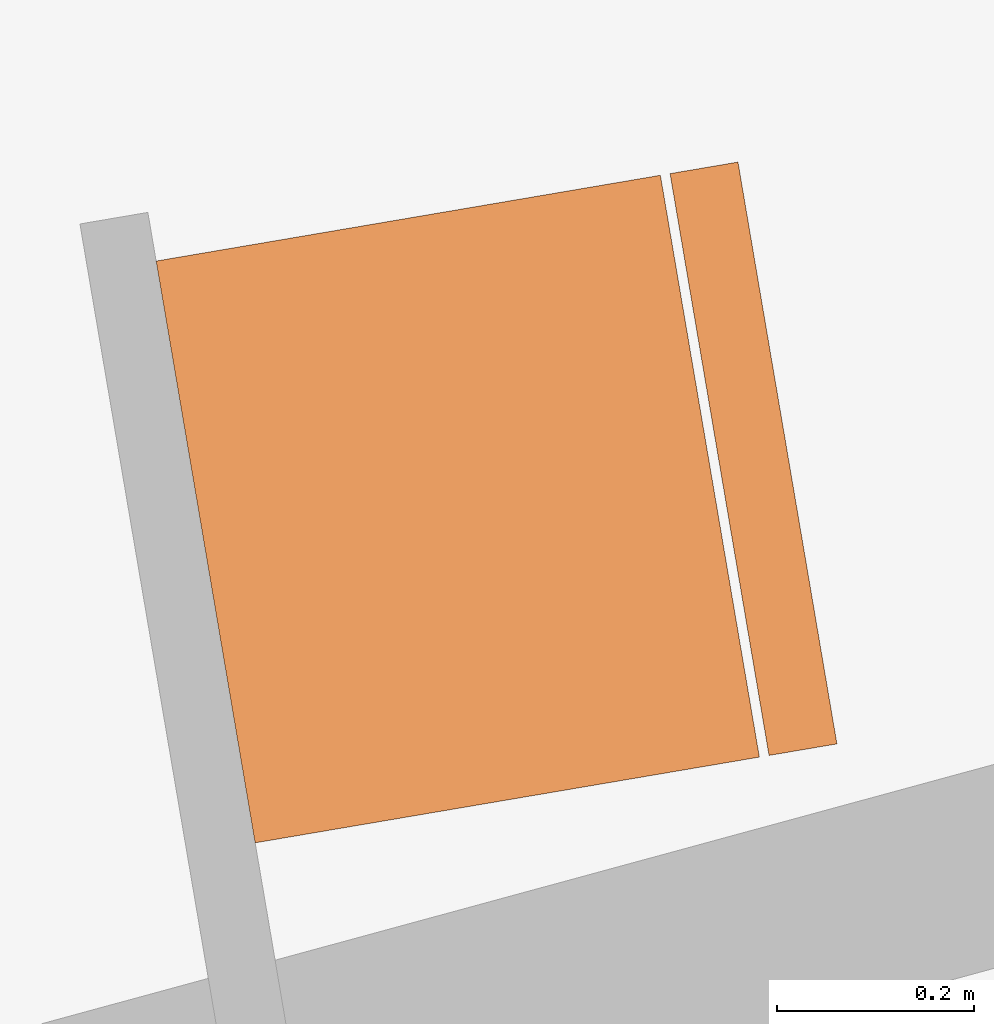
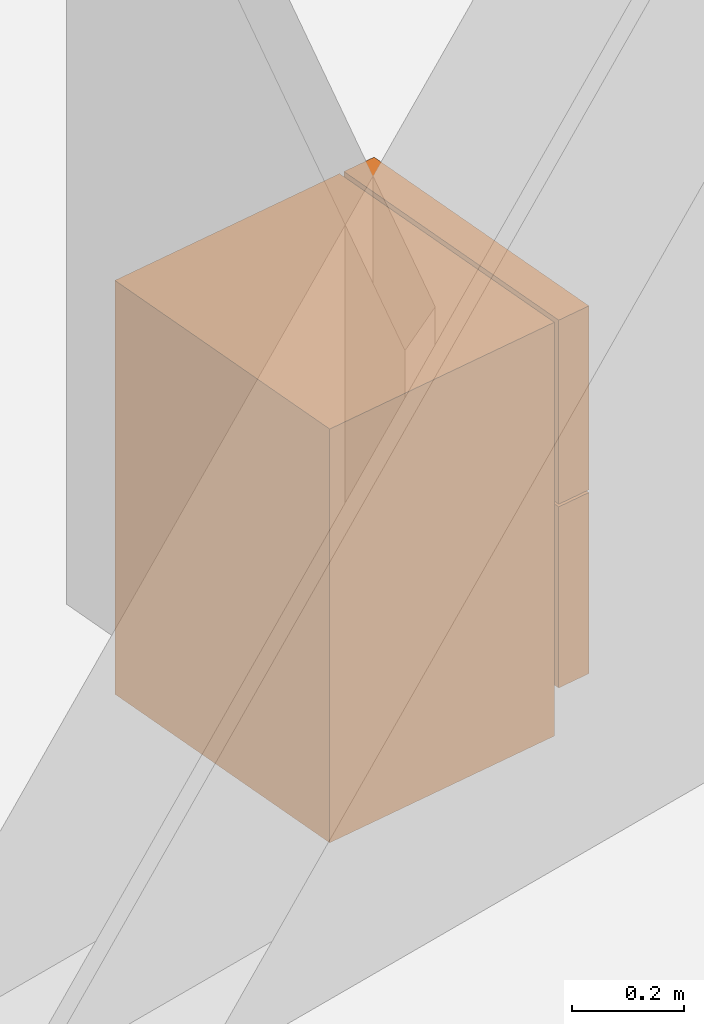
# One storey, part 180 of 195: 1 proxy.
"""IFC2X3 building model written with IfcOpenShell, lengths in metres."""

from ifc_helpers import new_model, entity, si_unit, converted_unit, derived_unit, money_unit, direction, frame, origin_with_axes, place, context, subcontext, project, spatial, open_shell, faceted_brep, surface_model, source, transform, mapped, type_object, element, save


model = new_model("IFC2X3")

# Units and contexts
model_context = context("Model", 3, precision=1e-05, world=origin_with_axes(), true_north=direction((0.0, 1.0)))
body_context = subcontext(model_context, "Body", "Model", "MODEL_VIEW")
ifc_project = project(units=[si_unit("LENGTHUNIT", "METRE"), si_unit("AREAUNIT", "SQUARE_METRE"), si_unit("VOLUMEUNIT", "CUBIC_METRE"), converted_unit("PLANEANGLEUNIT", "DEGREE", entity("IfcPlaneAngleMeasure", 0.0174532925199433), si_unit("PLANEANGLEUNIT", "RADIAN"), dimensions=[0, 0, 0, 0, 0, 0, 0]), money_unit("CHF"), converted_unit("TIMEUNIT", "Year", entity("IfcTimeMeasure", 31557600.0), si_unit("TIMEUNIT", "SECOND"), dimensions=[0, 0, 1, 0, 0, 0, 0]), si_unit("MASSUNIT", "GRAM", prefix="KILO"), si_unit("THERMODYNAMICTEMPERATUREUNIT", "DEGREE_CELSIUS"), si_unit("LUMINOUSINTENSITYUNIT", "LUMEN"), si_unit("ENERGYUNIT", "JOULE", prefix="MEGA"), derived_unit("THERMALCONDUCTANCEUNIT", [(si_unit("POWERUNIT", "WATT"), 1), (si_unit("LENGTHUNIT", "METRE"), -1), (si_unit("THERMODYNAMICTEMPERATUREUNIT", "KELVIN"), -1)]), derived_unit("SPECIFICHEATCAPACITYUNIT", [(si_unit("ENERGYUNIT", "JOULE"), 1), (si_unit("MASSUNIT", "GRAM", prefix="KILO"), -1), (si_unit("THERMODYNAMICTEMPERATUREUNIT", "KELVIN"), -1)]), derived_unit("MASSDENSITYUNIT", [(si_unit("MASSUNIT", "GRAM", prefix="KILO"), 1), (si_unit("VOLUMEUNIT", "CUBIC_METRE"), -1)])], contexts=[model_context])

# Site, building, storey
site_placement = place(None, origin_with_axes())
site = spatial("IfcSite", under=ifc_project, at=site_placement, Name="Site", CompositionType="ELEMENT")
building_placement = place(site_placement, origin_with_axes())
building = spatial("IfcBuilding", under=site, at=building_placement, Name="Bâtiment", CompositionType="ELEMENT")
storey_placement = place(building_placement, origin_with_axes())
storey = spatial("IfcBuildingStorey", under=building, at=storey_placement, Name="rdc", CompositionType="ELEMENT", Elevation=0.0)

# Proxy
building_element_proxy_type = type_object("IfcBuildingElementProxyType", PredefinedType="NOTDEFINED")
shared_shape = source(origin_with_axes(), body_context, "Body", "SurfaceModel", [
    faceted_brep([(0.0, 0.08, 0.1), (0.6, 0.08, 0.1), (0.6, 0.08, 0.9), (0.0, 0.08, 0.9), (0.0, 0.6, 0.1), (0.6, 0.6, 0.1), (0.6, 0.6, 0.9), (0.0, 0.6, 0.9)], [[[0, 1, 2, 3]], [[0, 4, 5, 1]], [[1, 5, 6, 2]], [[3, 2, 6, 7]], [[4, 0, 3, 7]], [[5, 4, 7, 6]]]),
    faceted_brep([(0.0, 0.08, 0.0), (0.6, 0.08, 0.0), (0.6, 0.08, 0.1), (0.0, 0.08, 0.1), (0.0, 0.6, 0.0), (0.6, 0.6, 0.0), (0.6, 0.6, 0.1), (0.0, 0.6, 0.1)], [[[0, 1, 2, 3]], [[0, 4, 5, 1]], [[1, 5, 6, 2]], [[3, 2, 6, 7]], [[4, 0, 3, 7]], [[5, 4, 7, 6]]]),
    faceted_brep([(0.0, 0.07, 0.1), (0.6, 0.07, 0.1), (0.6, 0.0, 0.1), (0.0, 0.0, 0.1), (0.0, 0.07000000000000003, 0.494), (0.6, 0.07000000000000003, 0.494), (0.6, 0.0, 0.494), (0.0, 0.0, 0.494)], [[[0, 1, 2, 3]], [[0, 4, 5, 1]], [[1, 5, 6, 2]], [[3, 2, 6, 7]], [[4, 0, 3, 7]], [[5, 4, 7, 6]]]),
    faceted_brep([(0.0, 0.07, 0.5), (0.6, 0.07, 0.5), (0.6, 0.0, 0.5), (0.0, 0.0, 0.5), (0.0, 0.07000000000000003, 0.9), (0.6, 0.07000000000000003, 0.9), (0.6, 0.0, 0.9), (0.0, 0.0, 0.9)], [[[0, 1, 2, 3]], [[0, 4, 5, 1]], [[1, 5, 6, 2]], [[3, 2, 6, 7]], [[4, 0, 3, 7]], [[5, 4, 7, 6]]]),
    surface_model("IfcShellBasedSurfaceModel", [(0.6, -0.03, 0.3), (0.6, -0.03, 0.4940000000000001), (0.6, 0.0, 0.4940000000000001), (0.6, 0.0, 0.3)], [open_shell([[[0, 1, 2, 3]]])]),
    surface_model("IfcShellBasedSurfaceModel", [(0.6, -0.03, 0.3), (0.6, -0.03, 0.4940000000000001), (0.57, -0.03, 0.4940000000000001), (0.57, -0.03, 0.3)], [open_shell([[[0, 1, 2, 3]]])]),
    surface_model("IfcShellBasedSurfaceModel", [(0.6, -0.03, 0.5), (0.6, -0.03, 0.7), (0.6, 0.0, 0.7), (0.6, 0.0, 0.5)], [open_shell([[[0, 1, 2, 3]]])]),
    surface_model("IfcShellBasedSurfaceModel", [(0.6, -0.03, 0.5), (0.6, -0.03, 0.7), (0.57, -0.03, 0.7), (0.57, -0.03, 0.5)], [open_shell([[[0, 1, 2, 3]]])]),
])
proxy_placement = place(storey_placement, frame((9587.819670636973, -1033.757439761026, 57.49999999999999), z_axis=(0.0, 0.0, 1.0), x_axis=(-0.1676860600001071, 0.9858404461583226, 0.0)))
element("IfcBuildingElementProxy", 1, at=proxy_placement, inside=storey, type_object=building_element_proxy_type, Name="Obj.-019", context=body_context, shape_type="MappedRepresentation", body=[
    mapped(shared_shape, transform((0.0, 0.0, 0.0))),
])

save(model, "model.ifc")
